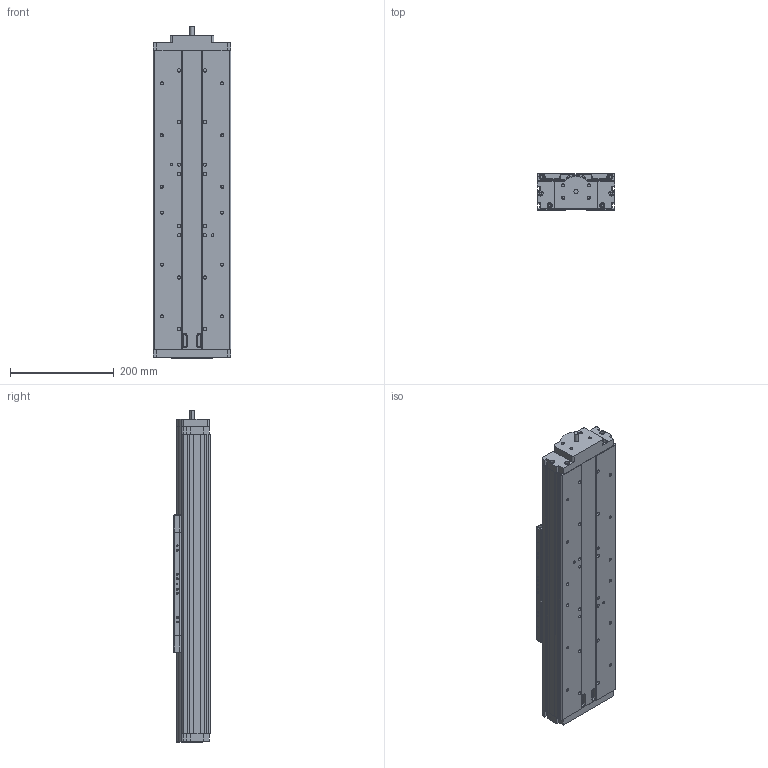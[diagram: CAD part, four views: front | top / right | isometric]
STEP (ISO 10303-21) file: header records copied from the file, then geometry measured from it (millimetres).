
FILE_DESCRIPTION((''),'2;1');
FILE_NAME('406XR-03_ASM','2002-07-12T',('FKrakosh'),(''),'PRO/ENGINEER BY PARAMETRIC TECHNOLOGY CORPORATION, 2000420','PRO/ENGINEER BY PARAMETRIC TECHNOLOGY CORPORATION, 2000420','');
FILE_SCHEMA(('CONFIG_CONTROL_DESIGN'));
Length unit declared in the file: millimetre
Products named in the file (8): 406XR-BASE-03; 406XR-REAR-END-BLK; 406XR-CARRIAGE; 10853610-01; 406XR-FEB-8MM; 10426110; 30321911; 406XR-03_ASM
Assembly tree (8 placements, depth 2):
  406XR-03_ASM
    406XR-BASE-03
    406XR-REAR-END-BLK
    406XR-CARRIAGE
    10853610-01  x2
    406XR-FEB-8MM
    10426110
    30321911
Bounding box: 150 x 69.9 x 641.4 mm (x, y, z)
Volume: 5487035.8 mm3; surface area: 485686.9 mm2
Topology: 8 solids, 58 shells, 876 faces, 2188 edges, 1460 vertices
Faces by surface type: cylinder 446, plane 400, bspline 16, sphere 12, cone 2
Entity records: 24876 total; most frequent: CARTESIAN_POINT 5420, DIRECTION 4262, ORIENTED_EDGE 3670, EDGE_CURVE 1931, AXIS2_PLACEMENT_3D 1629, VERTEX_POINT 1303, VECTOR 1004, LINE 1004
